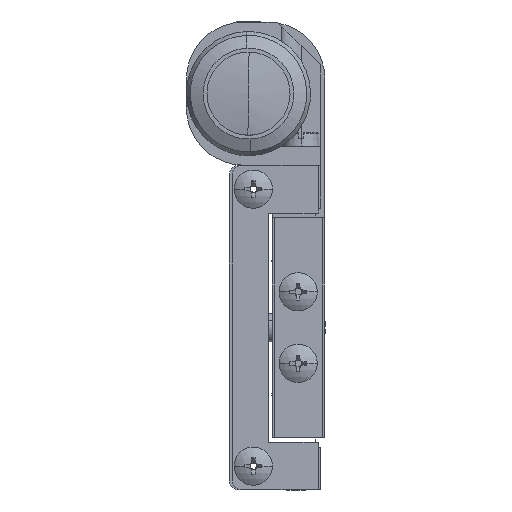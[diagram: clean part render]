
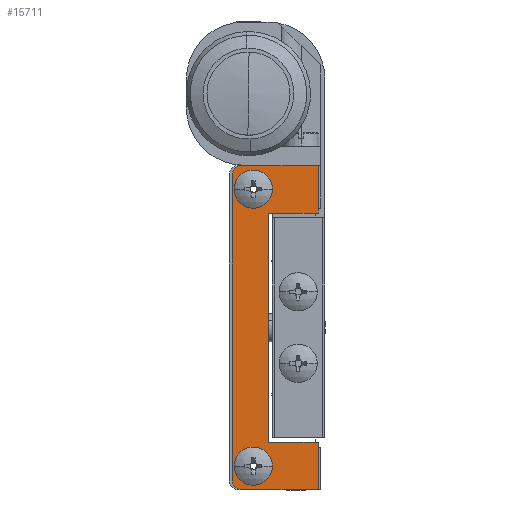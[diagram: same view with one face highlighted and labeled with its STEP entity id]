
A CAD part, left-side view. The second image highlights one B-rep face of the part: STEP entity #15711.
In plain terms, the highlighted planar face has unit normal (-1, 0, 0).
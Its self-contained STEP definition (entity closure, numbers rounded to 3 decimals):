
#82 = CARTESIAN_POINT ( 'NONE',  ( -15.687, 2.9, 12. ) ) ;
#161 = EDGE_CURVE ( 'NONE', #12507, #1850, #9868, .T. ) ;
#315 = CARTESIAN_POINT ( 'NONE',  ( -15.687, -2.3, -12. ) ) ;
#696 = DIRECTION ( 'NONE',  ( -1., 0., 0. ) ) ;
#791 = VECTOR ( 'NONE', #13936, 1000. ) ;
#980 = CARTESIAN_POINT ( 'NONE',  ( -15.687, -2.3, -17. ) ) ;
#1085 = CARTESIAN_POINT ( 'NONE',  ( -15.687, 4.5, -14.5 ) ) ;
#1120 = EDGE_LOOP ( 'NONE', ( #9997, #4932 ) ) ;
#1231 = CARTESIAN_POINT ( 'NONE',  ( -15.687, 4.5, -14.5 ) ) ;
#1294 = EDGE_CURVE ( 'NONE', #12436, #14879, #16620, .T. ) ;
#1570 = DIRECTION ( 'NONE',  ( -1., 0., 0. ) ) ;
#1703 = VECTOR ( 'NONE', #14944, 1000. ) ;
#1848 = DIRECTION ( 'NONE',  ( 0., 0., -1. ) ) ;
#1850 = VERTEX_POINT ( 'NONE', #980 ) ;
#2519 = CIRCLE ( 'NONE', #21894, 1. ) ;
#2727 = CARTESIAN_POINT ( 'NONE',  ( -15.687, 2.9, -12. ) ) ;
#2789 = EDGE_CURVE ( 'NONE', #6672, #12436, #2969, .T. ) ;
#2823 = DIRECTION ( 'NONE',  ( 0., 0., -1. ) ) ;
#2969 = LINE ( 'NONE', #21784, #20545 ) ;
#2976 = DIRECTION ( 'NONE',  ( 0., 0., -1. ) ) ;
#2999 = VECTOR ( 'NONE', #10398, 1000. ) ;
#3265 = CARTESIAN_POINT ( 'NONE',  ( -15.687, -2.3, 12. ) ) ;
#3562 = CARTESIAN_POINT ( 'NONE',  ( -15.687, 4.5, 14.5 ) ) ;
#3564 = EDGE_CURVE ( 'NONE', #18614, #7247, #20005, .T. ) ;
#3686 = EDGE_CURVE ( 'NONE', #3852, #8471, #13856, .T. ) ;
#3852 = VERTEX_POINT ( 'NONE', #7376 ) ;
#3853 = DIRECTION ( 'NONE',  ( 1., 0., 0. ) ) ;
#3952 = VECTOR ( 'NONE', #7001, 1000. ) ;
#4103 = CARTESIAN_POINT ( 'NONE',  ( -15.687, -2.3, -17. ) ) ;
#4105 = ORIENTED_EDGE ( 'NONE', *, *, #1294, .F. ) ;
#4199 = EDGE_CURVE ( 'NONE', #8471, #12507, #10770, .T. ) ;
#4232 = ORIENTED_EDGE ( 'NONE', *, *, #4199, .F. ) ;
#4652 = ORIENTED_EDGE ( 'NONE', *, *, #2789, .F. ) ;
#4666 = AXIS2_PLACEMENT_3D ( 'NONE', #1231, #13181, #2976 ) ;
#4778 = EDGE_LOOP ( 'NONE', ( #4652, #8098, #17021, #20528, #10694, #17896, #4232, #18775, #16222, #4105 ) ) ;
#4871 = AXIS2_PLACEMENT_3D ( 'NONE', #18586, #1570, #13512 ) ;
#4932 = ORIENTED_EDGE ( 'NONE', *, *, #3564, .T. ) ;
#5083 = ORIENTED_EDGE ( 'NONE', *, *, #7284, .T. ) ;
#5327 = VECTOR ( 'NONE', #5729, 1000. ) ;
#5729 = DIRECTION ( 'NONE',  ( 0., 0., -1. ) ) ;
#6445 = CARTESIAN_POINT ( 'NONE',  ( -15.687, -2.3, 12. ) ) ;
#6502 = CARTESIAN_POINT ( 'NONE',  ( -15.687, 6.7, 16. ) ) ;
#6510 = VECTOR ( 'NONE', #13949, 1000. ) ;
#6672 = VERTEX_POINT ( 'NONE', #15700 ) ;
#7001 = DIRECTION ( 'NONE',  ( 0., 1., 0. ) ) ;
#7112 = CARTESIAN_POINT ( 'NONE',  ( -15.687, 5.7, 16. ) ) ;
#7247 = VERTEX_POINT ( 'NONE', #16474 ) ;
#7284 = EDGE_CURVE ( 'NONE', #13656, #17107, #17425, .T. ) ;
#7376 = CARTESIAN_POINT ( 'NONE',  ( -15.687, 2.9, 12. ) ) ;
#7965 = DIRECTION ( 'NONE',  ( 0., 0., 1. ) ) ;
#8098 = ORIENTED_EDGE ( 'NONE', *, *, #16223, .T. ) ;
#8351 = AXIS2_PLACEMENT_3D ( 'NONE', #14071, #3853, #15788 ) ;
#8397 = CARTESIAN_POINT ( 'NONE',  ( -15.687, 4.5, 15.75 ) ) ;
#8471 = VERTEX_POINT ( 'NONE', #2727 ) ;
#8835 = DIRECTION ( 'NONE',  ( 0., 0., 1. ) ) ;
#9729 = CARTESIAN_POINT ( 'NONE',  ( -15.687, 5.7, -17. ) ) ;
#9836 = CARTESIAN_POINT ( 'NONE',  ( -15.687, 6.7, -17. ) ) ;
#9868 = LINE ( 'NONE', #4103, #5327 ) ;
#9980 = LINE ( 'NONE', #82, #6510 ) ;
#9992 = EDGE_CURVE ( 'NONE', #1850, #16691, #21018, .T. ) ;
#9997 = ORIENTED_EDGE ( 'NONE', *, *, #20891, .T. ) ;
#10398 = DIRECTION ( 'NONE',  ( 0., 0., -1. ) ) ;
#10694 = ORIENTED_EDGE ( 'NONE', *, *, #9992, .F. ) ;
#10770 = LINE ( 'NONE', #16670, #1703 ) ;
#10887 = CARTESIAN_POINT ( 'NONE',  ( -15.687, 5.7, -16. ) ) ;
#10914 = VECTOR ( 'NONE', #7965, 1000. ) ;
#11608 = FACE_BOUND ( 'NONE', #12398, .T. ) ;
#11779 = PLANE ( 'NONE',  #4871 ) ;
#12398 = EDGE_LOOP ( 'NONE', ( #19308, #5083 ) ) ;
#12436 = VERTEX_POINT ( 'NONE', #15220 ) ;
#12477 = EDGE_CURVE ( 'NONE', #14879, #3852, #9980, .T. ) ;
#12507 = VERTEX_POINT ( 'NONE', #315 ) ;
#12626 = DIRECTION ( 'NONE',  ( 0., 0., 1. ) ) ;
#12702 = FACE_OUTER_BOUND ( 'NONE', #4778, .T. ) ;
#13036 = DIRECTION ( 'NONE',  ( 1., 0., 0. ) ) ;
#13181 = DIRECTION ( 'NONE',  ( 1., 0., 0. ) ) ;
#13512 = DIRECTION ( 'NONE',  ( 0., 0., 1. ) ) ;
#13656 = VERTEX_POINT ( 'NONE', #20085 ) ;
#13786 = DIRECTION ( 'NONE',  ( 1., 0., 0. ) ) ;
#13856 = LINE ( 'NONE', #14087, #791 ) ;
#13936 = DIRECTION ( 'NONE',  ( 0., 0., -1. ) ) ;
#13949 = DIRECTION ( 'NONE',  ( 0., 1., 0. ) ) ;
#14071 = CARTESIAN_POINT ( 'NONE',  ( -15.687, 4.5, 14.5 ) ) ;
#14087 = CARTESIAN_POINT ( 'NONE',  ( -15.687, 2.9, -12. ) ) ;
#14493 = DIRECTION ( 'NONE',  ( 0., -1., 0. ) ) ;
#14734 = EDGE_CURVE ( 'NONE', #17107, #13656, #20456, .T. ) ;
#14879 = VERTEX_POINT ( 'NONE', #6445 ) ;
#14922 = AXIS2_PLACEMENT_3D ( 'NONE', #3562, #13786, #1848 ) ;
#14944 = DIRECTION ( 'NONE',  ( 0., -1., 0. ) ) ;
#15220 = CARTESIAN_POINT ( 'NONE',  ( -15.687, -2.3, 17. ) ) ;
#15463 = LINE ( 'NONE', #18211, #10914 ) ;
#15700 = CARTESIAN_POINT ( 'NONE',  ( -15.687, 5.7, 17. ) ) ;
#15711 = ADVANCED_FACE ( 'NONE', ( #11608, #16714, #12702 ), #11779, .T. ) ;
#15788 = DIRECTION ( 'NONE',  ( 0., 0., -1. ) ) ;
#16222 = ORIENTED_EDGE ( 'NONE', *, *, #12477, .F. ) ;
#16223 = EDGE_CURVE ( 'NONE', #6672, #19255, #19366, .T. ) ;
#16228 = CIRCLE ( 'NONE', #8351, 1.25 ) ;
#16474 = CARTESIAN_POINT ( 'NONE',  ( -15.687, 4.5, 13.25 ) ) ;
#16620 = LINE ( 'NONE', #3265, #2999 ) ;
#16670 = CARTESIAN_POINT ( 'NONE',  ( -15.687, -2.3, -12. ) ) ;
#16691 = VERTEX_POINT ( 'NONE', #9729 ) ;
#16714 = FACE_BOUND ( 'NONE', #1120, .T. ) ;
#17021 = ORIENTED_EDGE ( 'NONE', *, *, #18468, .F. ) ;
#17023 = EDGE_CURVE ( 'NONE', #17534, #16691, #2519, .T. ) ;
#17107 = VERTEX_POINT ( 'NONE', #19638 ) ;
#17237 = CARTESIAN_POINT ( 'NONE',  ( -15.687, 6.7, -16. ) ) ;
#17425 = CIRCLE ( 'NONE', #4666, 1.25 ) ;
#17534 = VERTEX_POINT ( 'NONE', #17237 ) ;
#17896 = ORIENTED_EDGE ( 'NONE', *, *, #161, .F. ) ;
#18027 = AXIS2_PLACEMENT_3D ( 'NONE', #1085, #13036, #2823 ) ;
#18187 = AXIS2_PLACEMENT_3D ( 'NONE', #7112, #19050, #8835 ) ;
#18211 = CARTESIAN_POINT ( 'NONE',  ( -15.687, 6.7, 17. ) ) ;
#18468 = EDGE_CURVE ( 'NONE', #17534, #19255, #15463, .T. ) ;
#18586 = CARTESIAN_POINT ( 'NONE',  ( -15.687, -2.3, 17. ) ) ;
#18614 = VERTEX_POINT ( 'NONE', #8397 ) ;
#18775 = ORIENTED_EDGE ( 'NONE', *, *, #3686, .F. ) ;
#19050 = DIRECTION ( 'NONE',  ( -1., 0., 0. ) ) ;
#19255 = VERTEX_POINT ( 'NONE', #6502 ) ;
#19308 = ORIENTED_EDGE ( 'NONE', *, *, #14734, .T. ) ;
#19366 = CIRCLE ( 'NONE', #18187, 1. ) ;
#19638 = CARTESIAN_POINT ( 'NONE',  ( -15.687, 4.5, -15.75 ) ) ;
#20005 = CIRCLE ( 'NONE', #14922, 1.25 ) ;
#20085 = CARTESIAN_POINT ( 'NONE',  ( -15.687, 4.5, -13.25 ) ) ;
#20456 = CIRCLE ( 'NONE', #18027, 1.25 ) ;
#20528 = ORIENTED_EDGE ( 'NONE', *, *, #17023, .T. ) ;
#20545 = VECTOR ( 'NONE', #14493, 1000. ) ;
#20891 = EDGE_CURVE ( 'NONE', #7247, #18614, #16228, .T. ) ;
#21018 = LINE ( 'NONE', #9836, #3952 ) ;
#21784 = CARTESIAN_POINT ( 'NONE',  ( -15.687, -2.3, 17. ) ) ;
#21894 = AXIS2_PLACEMENT_3D ( 'NONE', #10887, #696, #12626 ) ;
